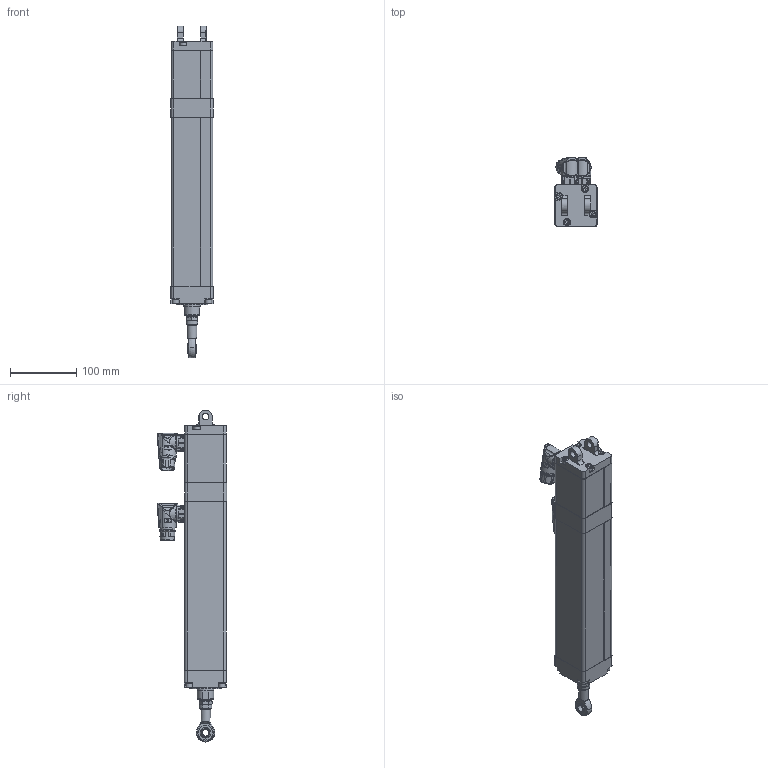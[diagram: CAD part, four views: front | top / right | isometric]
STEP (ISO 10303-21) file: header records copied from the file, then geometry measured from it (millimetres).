
FILE_DESCRIPTION (( 'STEP AP203' ), '1' );
FILE_NAME ('IMA22_BN05_SM200.000_IMA-475412-1.step', '2024-11-19T14:36:08', ( '' ), ( '' ), 'SwSTEP 2.0', 'SolidWorks 2024', '' );
FILE_SCHEMA (( 'CONFIG_CONTROL_DESIGN' ));
Length unit declared in the file: inch
Products named in the file (4): 27229014_IMA22_BN05_SM200.000_IMA-475412-1; tempJoin4_27229012_IMA22_BN05_SM200.000_IMA-475412-1; Base_IMA22_BN05_SM200.000_IMA-475412-1; IMA22_BN05_SM200.000_IMA-475412-1
Assembly tree (3 placements, depth 2):
  IMA22_BN05_SM200.000_IMA-475412-1
    tempJoin4_27229012_IMA22_BN05_SM200.000_IMA-475412-1
    27229014_IMA22_BN05_SM200.000_IMA-475412-1
    Base_IMA22_BN05_SM200.000_IMA-475412-1
Bounding box: 63.57 x 104.39 x 501.19 mm (x, y, z)
Volume: 1429351.8 mm3; surface area: 209257.7 mm2
Topology: 4 solids, 9 shells, 2279 faces, 5924 edges, 3740 vertices
Faces by surface type: plane 1180, cylinder 491, bspline 474, cone 100, torus 31, sphere 3
Full cylindrical faces by diameter (mm): 1 x12, 1.18 x12, 2 x6, 2.5 x10, 2.7 x8, 3 x2, 3.2 x2, 4.5 x10, 5.35 x3, 5.5 x3, 6 x8, 6.68 x4, 8.75 x1, 8.8 x1, 10 x12, 10.312 x4, 15 x1, 15.2 x1, 17.4 x1, 19.9 x1, 21.15 x4, 21.6 x1, 22 x1, 22.001 x1, 25.146 x1, 25.385 x1, 25.4 x2, 30 x2, 31.623 x1, 48 x1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
Entity records: 91352 total; most frequent: CARTESIAN_POINT 40894, ORIENTED_EDGE 11038, DIRECTION 8723, EDGE_CURVE 5519, VERTEX_POINT 3604, VECTOR 3099, LINE 3099, AXIS2_PLACEMENT_3D 2812
